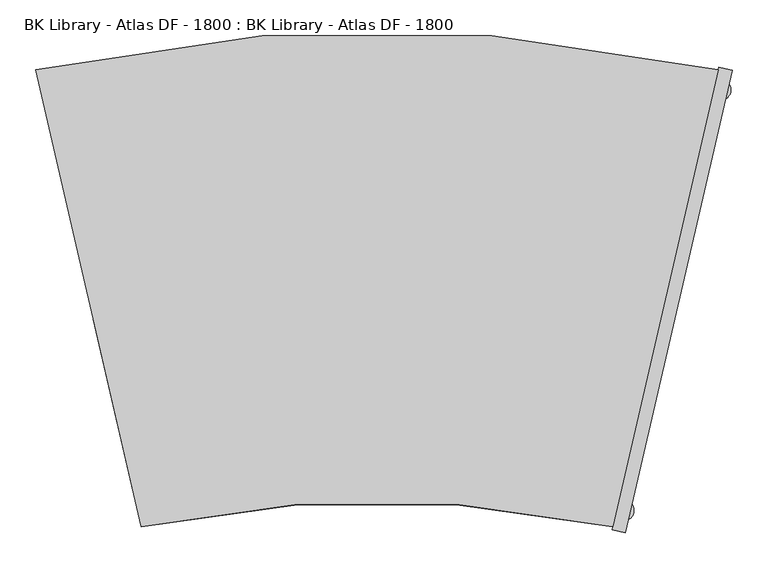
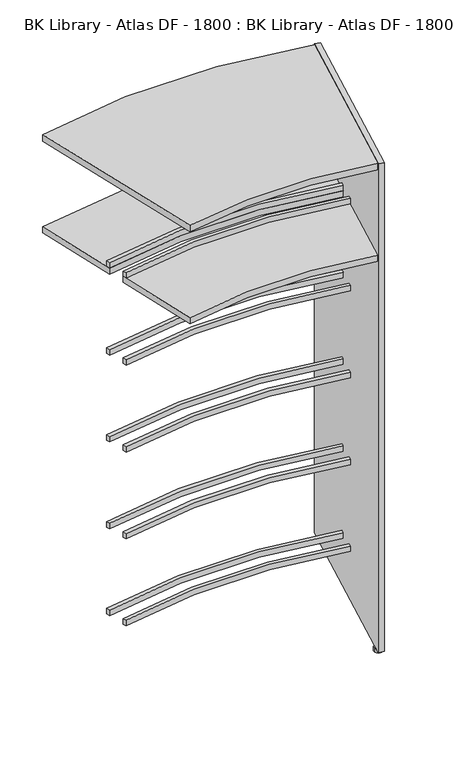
"""IFC4 building model written with IfcOpenShell, lengths in millimetres: furniture geometry, BK Library - Atlas DF - 1800 : BK Library - Atlas DF - 1800."""

import ifcopenshell
import ifcopenshell.guid

model = None  # the IFC model being written
_history = None  # IfcOwnerHistory: only IFC2X3 demands one
_inside = {}  # id of a spatial element -> (the spatial element, [elements in it])
_under = {}  # id of a project, library or spatial element -> (it, [spatial elements below it])
_declared = {}  # id of a project -> (the project, [libraries it declares])
_typed = {}  # id of a type object -> (the type object, [elements of that type])
_made_of = {}  # id of a material, layer set ... -> (it, [elements and type objects made of it])


def new_model(schema):
    """Start an empty IFC model of exactly this schema.

    Asked for "IFC4X3", IfcOpenShell would pick the latest addendum, in which some entities
    have other attributes; the version numbers below select the first issue.
    IFC2X3 requires an IfcOwnerHistory on every rooted entity: one is made here for all.
    """
    global model, _history
    if schema == "IFC4X3":
        model = ifcopenshell.file(schema_version=(4, 3, 0, 0))
    else:
        model = ifcopenshell.file(schema=schema)
    _inside.clear()
    _under.clear()
    _declared.clear()
    _typed.clear()
    _made_of.clear()
    _history = None
    if model.schema == "IFC2X3":
        org = make("IfcOrganization", Name="unknown")
        user = make(
            "IfcPersonAndOrganization",
            ThePerson=make("IfcPerson", FamilyName="unknown"),
            TheOrganization=org,
        )
        app = make(
            "IfcApplication",
            ApplicationDeveloper=org,
            Version="unknown",
            ApplicationFullName="unknown",
            ApplicationIdentifier="unknown",
        )
        _history = make(
            "IfcOwnerHistory",
            OwningUser=user,
            OwningApplication=app,
            ChangeAction="ADDED",
            CreationDate=0,
        )
    return model


def make(cls, **values):
    """One entity of the class cls with the attributes given. An attribute that is None is left unset."""
    return model.create_entity(
        cls, **{name: value for name, value in values.items() if value is not None}
    )


def rooted(cls, **values):
    """An entity with a GlobalId (a new one), such as an element, a storey or a relation."""
    return make(cls, GlobalId=ifcopenshell.guid.new(), OwnerHistory=_history, **values)


def si_unit(unit_type, name, prefix=None):
    """IfcSIUnit, for example si_unit("LENGTHUNIT", "METRE", prefix="MILLI")."""
    return make("IfcSIUnit", UnitType=unit_type, Prefix=prefix, Name=name)


def assignment(units):
    """IfcUnitAssignment: the units of a project."""
    return None if units is None else make("IfcUnitAssignment", Units=units)


def point(xyz):
    """IfcCartesianPoint."""
    return None if xyz is None else make("IfcCartesianPoint", Coordinates=xyz)


def direction(xyz):
    """IfcDirection."""
    return None if xyz is None else make("IfcDirection", DirectionRatios=xyz)


def frame(location, z_axis=None, x_axis=None):
    """IfcAxis2Placement3D, a coordinate frame: its origin and axes. An axis left out is left unset."""
    return make(
        "IfcAxis2Placement3D",
        Location=point(location),
        Axis=direction(z_axis),
        RefDirection=direction(x_axis),
    )


def frame_2d(location, x_axis=None):
    """IfcAxis2Placement2D, a coordinate frame in the plane: its origin and x axis."""
    return make(
        "IfcAxis2Placement2D", Location=point(location), RefDirection=direction(x_axis)
    )


def origin():
    """The frame at (0, 0, 0) with its axes left unset."""
    return frame((0.0, 0.0, 0.0))


def origin_with_axes():
    """The frame at (0, 0, 0) with the z axis (0, 0, 1) and the x axis (1, 0, 0) written out."""
    return frame((0.0, 0.0, 0.0), z_axis=(0.0, 0.0, 1.0), x_axis=(1.0, 0.0, 0.0))


def place(relative_to, where):
    """IfcLocalPlacement: puts the frame where relative to a parent placement (None: the world)."""
    return make(
        "IfcLocalPlacement", PlacementRelTo=relative_to, RelativePlacement=where
    )


def context(
    kind, dimensions, precision=None, world=None, true_north=None, identifier=None
):
    """IfcGeometricRepresentationContext, for example the 3D "Model" context."""
    return make(
        "IfcGeometricRepresentationContext",
        ContextIdentifier=identifier,
        ContextType=kind,
        CoordinateSpaceDimension=dimensions,
        Precision=precision,
        WorldCoordinateSystem=world,
        TrueNorth=true_north,
    )


def project(units=None, contexts=None):
    """IfcProject with its units and contexts."""
    return rooted(
        "IfcProject",
        Name="project",
        RepresentationContexts=contexts,
        UnitsInContext=assignment(units),
    )


def spatial(cls, under=None, at=None, **own):
    """A site, building, storey or space (cls), placed at a placement, below another one or the project."""
    s = rooted(cls, ObjectPlacement=at, **own)
    if under is not None:
        _under.setdefault(under.id(), (under, []))[1].append(s)
    return s


def polyline(points):
    """IfcPolyline through the points."""
    return make("IfcPolyline", Points=[point(p) for p in points])


def circle_curve(where, radius):
    """IfcCircle in the frame where."""
    return make("IfcCircle", Position=where, Radius=radius)


def trimmed(basis, trim1, trim2, sense, master):
    """IfcTrimmedCurve: the piece of a basis curve between two trims."""
    return make(
        "IfcTrimmedCurve",
        BasisCurve=basis,
        Trim1=trim1,
        Trim2=trim2,
        SenseAgreement=sense,
        MasterRepresentation=master,
    )


def segment(curve, same_sense, transition):
    """IfcCompositeCurveSegment."""
    return make(
        "IfcCompositeCurveSegment",
        Transition=transition,
        SameSense=same_sense,
        ParentCurve=curve,
    )


def composite_curve(segments, self_intersect=None):
    """IfcCompositeCurve: segments joined end to end."""
    return make("IfcCompositeCurve", Segments=segments, SelfIntersect=self_intersect)


def outline(outer, holes=None, kind="AREA"):
    """IfcArbitraryClosedProfileDef: a profile drawn as a closed curve; with holes, ...WithVoids."""
    if holes is None:
        return make("IfcArbitraryClosedProfileDef", ProfileType=kind, OuterCurve=outer)
    return make(
        "IfcArbitraryProfileDefWithVoids",
        ProfileType=kind,
        OuterCurve=outer,
        InnerCurves=holes,
    )


def extrude(swept, where, along, depth):
    """IfcExtrudedAreaSolid: the profile swept, set in the frame where, extruded along a direction by depth."""
    return make(
        "IfcExtrudedAreaSolid",
        SweptArea=swept,
        Position=where,
        ExtrudedDirection=direction(along),
        Depth=depth,
    )


def shape(context_of_items, identifier, shape_type, items):
    """IfcShapeRepresentation: the items that make up one representation, for example the "Body"."""
    return make(
        "IfcShapeRepresentation",
        ContextOfItems=context_of_items,
        RepresentationIdentifier=identifier,
        RepresentationType=shape_type,
        Items=items,
    )


def source(mapping_origin, context_of_items, identifier, shape_type, items):
    """IfcRepresentationMap: a shape defined once, which mapped items show again and again."""
    return make(
        "IfcRepresentationMap",
        MappingOrigin=mapping_origin,
        MappedRepresentation=shape(context_of_items, identifier, shape_type, items),
    )


def transform(
    local_origin,
    x_axis=None,
    y_axis=None,
    z_axis=None,
    scale=None,
    scale2=None,
    scale3=None,
    uniform=True,
):
    """IfcCartesianTransformationOperator3D, or its non-uniform kind. x_axis, y_axis, z_axis: its Axis1, 2, 3."""
    if uniform:
        return make(
            "IfcCartesianTransformationOperator3D",
            Axis1=direction(x_axis),
            Axis2=direction(y_axis),
            LocalOrigin=point(local_origin),
            Scale=scale,
            Axis3=direction(z_axis),
        )
    return make(
        "IfcCartesianTransformationOperator3DnonUniform",
        Axis1=direction(x_axis),
        Axis2=direction(y_axis),
        LocalOrigin=point(local_origin),
        Scale=scale,
        Axis3=direction(z_axis),
        Scale2=scale2,
        Scale3=scale3,
    )


def mapped(mapping_source, mapping_target):
    """IfcMappedItem: shows the shape of a source again, moved by a transform."""
    return make(
        "IfcMappedItem", MappingSource=mapping_source, MappingTarget=mapping_target
    )


def made_of(thing, what):
    """Note that an element or type object is made of a material, layer set ...; save() writes the relation."""
    if what is not None:
        _made_of.setdefault(what.id(), (what, []))[1].append(thing)
    return thing


def element(
    cls,
    number,
    at=None,
    inside=None,
    cuts=None,
    type_object=None,
    material=None,
    context=None,
    identifier="Body",
    shape_type=None,
    held_by="IfcProductDefinitionShape",
    body=None,
    shapes=None,
    **own,
):
    """One element of the class cls, such as IfcWall. Its Tag is "e" and its number.

    at: its placement. inside: the storey or other place that contains it. cuts: it is an
    opening in that element (IfcRelVoidsElement). A single representation is given by context,
    identifier, shape_type and body (its items); several are given by shapes. held_by: the class
    of the entity that holds the representations. save() writes the other relations.
    """
    e = rooted(cls, Tag="e%d" % number, ObjectPlacement=at, **own)
    if body is not None:
        shapes = [shape(context, identifier, shape_type, body)]
    if shapes is not None:
        e.Representation = make(held_by, Representations=shapes)
    if inside is not None:
        _inside.setdefault(inside.id(), (inside, []))[1].append(e)
    if cuts is not None:
        rooted(
            "IfcRelVoidsElement", RelatingBuildingElement=cuts, RelatedOpeningElement=e
        )
    if type_object is not None:
        _typed.setdefault(type_object.id(), (type_object, []))[1].append(e)
    return made_of(e, material)


def aggregate(whole, parts):
    """IfcRelAggregates: a whole, such as a stair, and the parts it consists of."""
    return rooted("IfcRelAggregates", RelatingObject=whole, RelatedObjects=parts)


def save(model, path):
    """Write the relations noted so far, then the file.

    IfcRelAggregates (storeys below a building ...), IfcRelContainedInSpatialStructure (elements
    in a storey), IfcRelDefinesByType, IfcRelAssociatesMaterial and IfcRelDeclares: one each for
    every whole, place, type object, material and project.
    """
    for whole, parts in _under.values():
        aggregate(whole, parts)
    for where, things in _inside.values():
        rooted(
            "IfcRelContainedInSpatialStructure",
            RelatedElements=things,
            RelatingStructure=where,
        )
    for kind, things in _typed.values():
        rooted("IfcRelDefinesByType", RelatedObjects=things, RelatingType=kind)
    for what, things in _made_of.values():
        rooted("IfcRelAssociatesMaterial", RelatedObjects=things, RelatingMaterial=what)
    for by, libraries in _declared.values():
        rooted("IfcRelDeclares", RelatingContext=by, RelatedDefinitions=libraries)
    model.write(path)


def bk_library_atlas_df_1800_bk_library_atlas_df_1800_3e1de083(model_context):
    return source(origin(), model_context, "Body", "SweptSolid", [
        extrude(outline(composite_curve([segment(trimmed(circle_curve(frame_2d((0.0, -1840.4430404)), 1557.6392973), [point((327.6944521, -317.663829))], [point((-327.6944521, -317.663829))], True, "CARTESIAN"), True, "CONTINUOUS"), segment(polyline([(-327.6944521, -317.663829), (-394.2058088, -29.2269986)]), True, "CONTINUOUS"), segment(trimmed(circle_curve(frame_2d((0.0, -1785.1487517)), 1799.627579), [point((-394.2058088, -29.2269986))], [point((394.2058088, -29.2269986))], False, "CARTESIAN"), True, "CONTINUOUS"), segment(polyline([(394.2058088, -29.2269986), (327.6944521, -317.663829)]), True, "CONTINUOUS")], self_intersect=False)), frame((0.0, 0.0, 1451.6999998), z_axis=(0.0, 0.0, 1.0), x_axis=(1.0, 0.0, 0.0)), (0.0, 0.0, 1.0), 22.0),
        extrude(outline(composite_curve([segment(trimmed(circle_curve(frame_2d((0.0, -1777.8812307)), 2148.52767), [point((-474.1962162, 317.663829))], [point((474.1962162, 317.663829))], False, "CARTESIAN"), True, "CONTINUOUS"), segment(polyline([(474.1962162, 317.663829), (407.6853202, 29.2289965)]), True, "CONTINUOUS"), segment(trimmed(circle_curve(frame_2d((0.0, -1798.2835703)), 1872.4341116), [point((407.6853202, 29.2289965))], [point((-407.6853202, 29.2289965))], True, "CARTESIAN"), True, "CONTINUOUS"), segment(polyline([(-407.6853202, 29.2289965), (-474.1962162, 317.663829)]), True, "CONTINUOUS")], self_intersect=False)), frame((0.0, 0.0, 1451.6999998), z_axis=(0.0, 0.0, 1.0), x_axis=(1.0, 0.0, 0.0)), (0.0, 0.0, 1.0), 22.0),
        extrude(outline(composite_curve([segment(trimmed(circle_curve(frame_2d((0.0, -1785.1487517)), 1799.627579), [point((-394.2058088, -29.2269986))], [point((394.2058088, -29.2269986))], False, "CARTESIAN"), True, "CONTINUOUS"), segment(polyline([(394.2058088, -29.2269986), (391.2848087, -41.8943694)]), True, "CONTINUOUS"), segment(trimmed(circle_curve(frame_2d((0.0, -1790.5831955)), 1791.9309172), [point((391.2848087, -41.8943694))], [point((-391.2848087, -41.8943694))], True, "CARTESIAN"), True, "CONTINUOUS"), segment(polyline([(-391.2848087, -41.8943694), (-394.2058088, -29.2269986)]), True, "CONTINUOUS")], self_intersect=False)), frame((0.0, 0.0, 193.6999998), z_axis=(0.0, 0.0, 1.0), x_axis=(1.0, 0.0, 0.0)), (0.0, 0.0, 1.0), 20.0),
        extrude(outline(composite_curve([segment(trimmed(circle_curve(frame_2d((0.0, -1776.6858327)), 1864.3585062), [point((-410.605951, 41.8947656))], [point((410.605951, 41.8947656))], False, "CARTESIAN"), True, "CONTINUOUS"), segment(polyline([(410.605951, 41.8947656), (407.6853202, 29.2289965)]), True, "CONTINUOUS"), segment(trimmed(circle_curve(frame_2d((0.0, -1798.2835703)), 1872.4341116), [point((407.6853202, 29.2289965))], [point((-407.6853202, 29.2289965))], True, "CARTESIAN"), True, "CONTINUOUS"), segment(polyline([(-407.6853202, 29.2289965), (-410.605951, 41.8947656)]), True, "CONTINUOUS")], self_intersect=False)), frame((0.0, 0.0, 193.6999998), z_axis=(0.0, 0.0, 1.0), x_axis=(1.0, 0.0, 0.0)), (0.0, 0.0, 1.0), 20.0),
        extrude(outline(composite_curve([segment(trimmed(circle_curve(frame_2d((0.0, -1785.1487517)), 1799.627579), [point((-394.2058088, -29.2269986))], [point((394.2058088, -29.2269986))], False, "CARTESIAN"), True, "CONTINUOUS"), segment(polyline([(394.2058088, -29.2269986), (391.2848087, -41.8943694)]), True, "CONTINUOUS"), segment(trimmed(circle_curve(frame_2d((0.0, -1790.5831955)), 1791.9309172), [point((391.2848087, -41.8943694))], [point((-391.2848087, -41.8943694))], True, "CARTESIAN"), True, "CONTINUOUS"), segment(polyline([(-391.2848087, -41.8943694), (-394.2058088, -29.2269986)]), True, "CONTINUOUS")], self_intersect=False)), frame((0.0, 0.0, 513.6999998), z_axis=(0.0, 0.0, 1.0), x_axis=(1.0, 0.0, 0.0)), (0.0, 0.0, 1.0), 20.0),
        extrude(outline(composite_curve([segment(trimmed(circle_curve(frame_2d((0.0, -1776.6858327)), 1864.3585062), [point((-410.605951, 41.8947656))], [point((410.605951, 41.8947656))], False, "CARTESIAN"), True, "CONTINUOUS"), segment(polyline([(410.605951, 41.8947656), (407.6853202, 29.2289965)]), True, "CONTINUOUS"), segment(trimmed(circle_curve(frame_2d((0.0, -1798.2835703)), 1872.4341116), [point((407.6853202, 29.2289965))], [point((-407.6853202, 29.2289965))], True, "CARTESIAN"), True, "CONTINUOUS"), segment(polyline([(-407.6853202, 29.2289965), (-410.605951, 41.8947656)]), True, "CONTINUOUS")], self_intersect=False)), frame((0.0, 0.0, 513.6999998), z_axis=(0.0, 0.0, 1.0), x_axis=(1.0, 0.0, 0.0)), (0.0, 0.0, 1.0), 20.0),
        extrude(outline(composite_curve([segment(trimmed(circle_curve(frame_2d((0.0, -1785.1487517)), 1799.627579), [point((-394.2058088, -29.2269986))], [point((394.2058088, -29.2269986))], False, "CARTESIAN"), True, "CONTINUOUS"), segment(polyline([(394.2058088, -29.2269986), (391.2848087, -41.8943694)]), True, "CONTINUOUS"), segment(trimmed(circle_curve(frame_2d((0.0, -1790.5831955)), 1791.9309172), [point((391.2848087, -41.8943694))], [point((-391.2848087, -41.8943694))], True, "CARTESIAN"), True, "CONTINUOUS"), segment(polyline([(-391.2848087, -41.8943694), (-394.2058088, -29.2269986)]), True, "CONTINUOUS")], self_intersect=False)), frame((0.0, 0.0, 833.6999998), z_axis=(0.0, 0.0, 1.0), x_axis=(1.0, 0.0, 0.0)), (0.0, 0.0, 1.0), 20.0),
        extrude(outline(composite_curve([segment(trimmed(circle_curve(frame_2d((0.0, -1776.6858327)), 1864.3585062), [point((-410.605951, 41.8947656))], [point((410.605951, 41.8947656))], False, "CARTESIAN"), True, "CONTINUOUS"), segment(polyline([(410.605951, 41.8947656), (407.6853202, 29.2289965)]), True, "CONTINUOUS"), segment(trimmed(circle_curve(frame_2d((0.0, -1798.2835703)), 1872.4341116), [point((407.6853202, 29.2289965))], [point((-407.6853202, 29.2289965))], True, "CARTESIAN"), True, "CONTINUOUS"), segment(polyline([(-407.6853202, 29.2289965), (-410.605951, 41.8947656)]), True, "CONTINUOUS")], self_intersect=False)), frame((0.0, 0.0, 833.6999998), z_axis=(0.0, 0.0, 1.0), x_axis=(1.0, 0.0, 0.0)), (0.0, 0.0, 1.0), 20.0),
        extrude(outline(composite_curve([segment(trimmed(circle_curve(frame_2d((0.0, -1785.1487517)), 1799.627579), [point((-394.2058088, -29.2269986))], [point((394.2058088, -29.2269986))], False, "CARTESIAN"), True, "CONTINUOUS"), segment(polyline([(394.2058088, -29.2269986), (391.2848087, -41.8943694)]), True, "CONTINUOUS"), segment(trimmed(circle_curve(frame_2d((0.0, -1790.5831955)), 1791.9309172), [point((391.2848087, -41.8943694))], [point((-391.2848087, -41.8943694))], True, "CARTESIAN"), True, "CONTINUOUS"), segment(polyline([(-391.2848087, -41.8943694), (-394.2058088, -29.2269986)]), True, "CONTINUOUS")], self_intersect=False)), frame((0.0, 0.0, 1153.6999998), z_axis=(0.0, 0.0, 1.0), x_axis=(1.0, 0.0, 0.0)), (0.0, 0.0, 1.0), 20.0),
        extrude(outline(composite_curve([segment(trimmed(circle_curve(frame_2d((0.0, -1776.6858327)), 1864.3585062), [point((-410.605951, 41.8947656))], [point((410.605951, 41.8947656))], False, "CARTESIAN"), True, "CONTINUOUS"), segment(polyline([(410.605951, 41.8947656), (407.6853202, 29.2289965)]), True, "CONTINUOUS"), segment(trimmed(circle_curve(frame_2d((0.0, -1798.2835703)), 1872.4341116), [point((407.6853202, 29.2289965))], [point((-407.6853202, 29.2289965))], True, "CARTESIAN"), True, "CONTINUOUS"), segment(polyline([(-407.6853202, 29.2289965), (-410.605951, 41.8947656)]), True, "CONTINUOUS")], self_intersect=False)), frame((0.0, 0.0, 1153.6999998), z_axis=(0.0, 0.0, 1.0), x_axis=(1.0, 0.0, 0.0)), (0.0, 0.0, 1.0), 20.0),
        extrude(outline(composite_curve([segment(trimmed(circle_curve(frame_2d((0.0, -1785.1487517)), 1799.627579), [point((-394.2058088, -29.2269986))], [point((394.2058088, -29.2269986))], False, "CARTESIAN"), True, "CONTINUOUS"), segment(polyline([(394.2058088, -29.2269986), (391.2848087, -41.8943694)]), True, "CONTINUOUS"), segment(trimmed(circle_curve(frame_2d((0.0, -1790.5831955)), 1791.9309172), [point((391.2848087, -41.8943694))], [point((-391.2848087, -41.8943694))], True, "CARTESIAN"), True, "CONTINUOUS"), segment(polyline([(-391.2848087, -41.8943694), (-394.2058088, -29.2269986)]), True, "CONTINUOUS")], self_intersect=False)), frame((0.0, 0.0, 1473.6999998), z_axis=(0.0, 0.0, 1.0), x_axis=(1.0, 0.0, 0.0)), (0.0, 0.0, 1.0), 20.0),
        extrude(outline(composite_curve([segment(trimmed(circle_curve(frame_2d((0.0, -1776.6858327)), 1864.3585062), [point((-410.605951, 41.8947656))], [point((410.605951, 41.8947656))], False, "CARTESIAN"), True, "CONTINUOUS"), segment(polyline([(410.605951, 41.8947656), (407.6853202, 29.2289965)]), True, "CONTINUOUS"), segment(trimmed(circle_curve(frame_2d((0.0, -1798.2835703)), 1872.4341116), [point((407.6853202, 29.2289965))], [point((-407.6853202, 29.2289965))], True, "CARTESIAN"), True, "CONTINUOUS"), segment(polyline([(-407.6853202, 29.2289965), (-410.605951, 41.8947656)]), True, "CONTINUOUS")], self_intersect=False)), frame((0.0, 0.0, 1473.6999998), z_axis=(0.0, 0.0, 1.0), x_axis=(1.0, 0.0, 0.0)), (0.0, 0.0, 1.0), 20.0),
        extrude(outline(composite_curve([segment(trimmed(circle_curve(frame_2d((0.0, -1777.8812307)), 2148.52767), [point((-474.1962162, 317.663829))], [point((474.1962162, 317.663829))], False, "CARTESIAN"), True, "CONTINUOUS"), segment(polyline([(474.1962162, 317.663829), (327.6944521, -317.663829)]), True, "CONTINUOUS"), segment(trimmed(circle_curve(frame_2d((0.0, -1840.4430404)), 1557.6392973), [point((327.6944521, -317.663829))], [point((-327.6944521, -317.663829))], True, "CARTESIAN"), True, "CONTINUOUS"), segment(polyline([(-327.6944521, -317.663829), (-474.1962162, 317.663829)]), True, "CONTINUOUS")], self_intersect=False)), frame((0.0, 0.0, 1789.6999998), z_axis=(0.0, 0.0, 1.0), x_axis=(1.0, 0.0, 0.0)), (0.0, 0.0, 1.0), 24.0),
        extrude(outline(polyline([(475.095, 321.5615447), (493.6091495, 317.2923215), (345.3098178, -325.8307679), (326.7956683, -321.5615447), (475.095, 321.5615447)])), frame((0.0, 0.0, 13.6999998), z_axis=(0.0, 0.0, 1.0), x_axis=(1.0, 0.0, 0.0)), (0.0, 0.0, 1.0), 1800.0),
        extrude(outline(composite_curve([segment(trimmed(circle_curve(frame_2d((477.608406, 290.1883722)), 14.4994573), [point((492.1078633, 290.1883722))], [point((463.1089486, 290.1883722))], False, "CARTESIAN"), True, "CONTINUOUS"), segment(trimmed(circle_curve(frame_2d((477.608406, 290.1883722)), 14.4994573), [point((463.1089486, 290.1883722))], [point((492.1078633, 290.1883722))], False, "CARTESIAN"), True, "CONTINUOUS")], self_intersect=False)), origin_with_axes(), (0.0, 0.0, 1.0), 13.6999998),
        extrude(outline(composite_curve([segment(trimmed(circle_curve(frame_2d((342.7923392, -294.4590973)), 14.4994573), [point((357.2917965, -294.4590973))], [point((328.2928818, -294.4590973))], False, "CARTESIAN"), True, "CONTINUOUS"), segment(trimmed(circle_curve(frame_2d((342.7923392, -294.4590973)), 14.4994573), [point((328.2928818, -294.4590973))], [point((357.2917965, -294.4590973))], False, "CARTESIAN"), True, "CONTINUOUS")], self_intersect=False)), origin_with_axes(), (0.0, 0.0, 1.0), 13.6999998),
    ])


if __name__ == "__main__":
    model = new_model("IFC4")
    model_context = context("Model", 3, world=origin())
    ifc_project = project(units=[si_unit("LENGTHUNIT", "METRE", prefix="MILLI")], contexts=[model_context])
    site = spatial("IfcSite", under=ifc_project)
    building = spatial("IfcBuilding", under=site)
    placement = place(None, origin())
    bk_library_atlas_df_1800_bk_library_atlas_df_1800_shape = bk_library_atlas_df_1800_bk_library_atlas_df_1800_3e1de083(model_context)
    element("IfcFurniture", 1, ObjectType="BK Library - Atlas DF - 1800 : BK Library - Atlas DF - 1800", at=placement, inside=building, context=model_context, shape_type="MappedRepresentation", body=[
        mapped(bk_library_atlas_df_1800_bk_library_atlas_df_1800_shape, transform((0.0, 0.0, 0.0), x_axis=(1.0, 0.0, 0.0), y_axis=(0.0, 1.0, 0.0), z_axis=(0.0, 0.0, 1.0))),
    ])
    save(model, "model.ifc")
